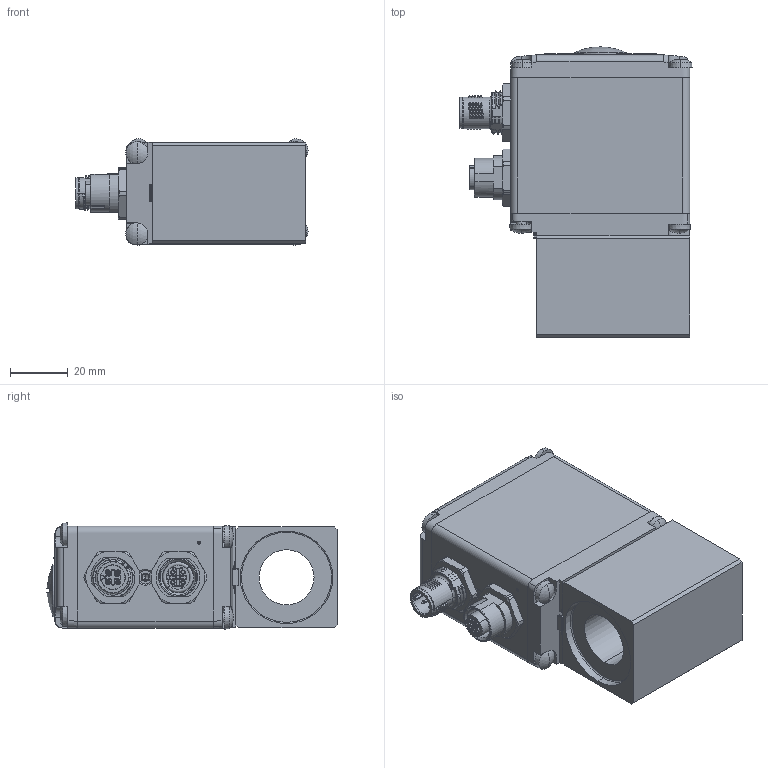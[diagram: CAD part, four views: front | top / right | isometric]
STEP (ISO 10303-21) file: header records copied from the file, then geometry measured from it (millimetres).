
FILE_DESCRIPTION (( 'STEP AP214' ), '1' );
FILE_NAME ('ME35_19x50-...P.STEP', '2014-04-03T07:00:06', ( '' ), ( '' ), 'SwSTEP 2.0', 'SolidWorks 2012', '' );
FILE_SCHEMA (( 'AUTOMOTIVE_DESIGN' ));
Length unit declared in the file: millimetre
Products named in the file (1): ME35_19x50-...P
Bounding box: 80.3 x 100.39 x 36.78 mm (x, y, z)
Volume: 119589.6 mm3; surface area: 45625.8 mm2
Topology: 4 solids, 4 shells, 2428 faces, 6730 edges, 4373 vertices
Faces by surface type: plane 1419, cylinder 630, torus 168, cone 117, bspline 65, sphere 29
Entity records: 85155 total; most frequent: CARTESIAN_POINT 20038, ORIENTED_EDGE 13432, DIRECTION 11962, EDGE_CURVE 6716, LINE 4530, VECTOR 4530, VERTEX_POINT 4373, AXIS2_PLACEMENT_3D 3716
